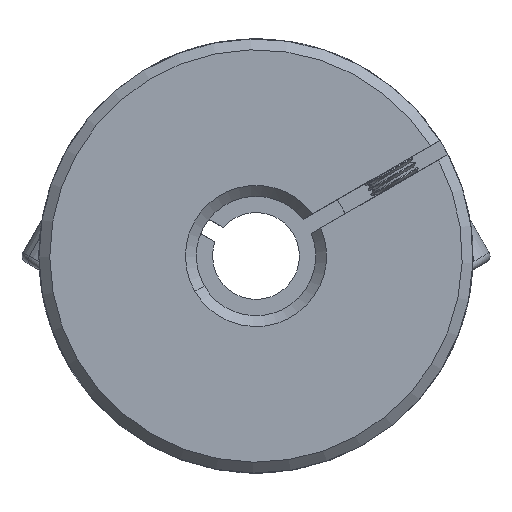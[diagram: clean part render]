
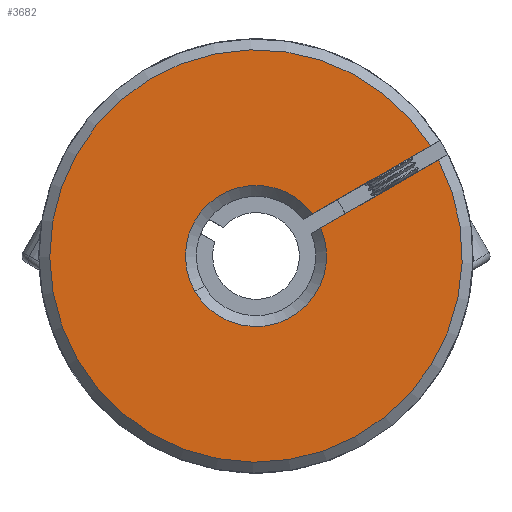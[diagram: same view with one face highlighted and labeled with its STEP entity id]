
A CAD part, front view. The second image highlights one B-rep face of the part: STEP entity #3682.
In plain terms, the highlighted planar face has unit normal (0, -1, 0).
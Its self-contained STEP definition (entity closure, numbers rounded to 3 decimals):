
#773 = EDGE_CURVE ( 'NONE', #1270, #9957, #11115, .T. ) ;
#1270 = VERTEX_POINT ( 'NONE', #13523 ) ;
#1366 = AXIS2_PLACEMENT_3D ( 'NONE', #2923, #7245, #8552 ) ;
#1600 = DIRECTION ( 'NONE',  ( 0., -1., 0. ) ) ;
#1601 = LINE ( 'NONE', #10411, #9548 ) ;
#1625 = CIRCLE ( 'NONE', #6169, 19. ) ;
#1745 = FACE_OUTER_BOUND ( 'NONE', #9309, .T. ) ;
#2253 = EDGE_CURVE ( 'NONE', #5364, #3074, #1625, .T. ) ;
#2315 = VERTEX_POINT ( 'NONE', #5849 ) ;
#2844 = CARTESIAN_POINT ( 'NONE',  ( -1.447, -31.239, 40. ) ) ;
#2886 = CARTESIAN_POINT ( 'NONE',  ( 52.98, -31.239, 45.743 ) ) ;
#2923 = CARTESIAN_POINT ( 'NONE',  ( -1.447, -31.239, 40. ) ) ;
#2983 = DIRECTION ( 'NONE',  ( 0., 1., 0. ) ) ;
#3074 = VERTEX_POINT ( 'NONE', #13713 ) ;
#3682 = ADVANCED_FACE ( 'NONE', ( #1745 ), #7156, .F. ) ;
#3889 = ORIENTED_EDGE ( 'NONE', *, *, #11905, .F. ) ;
#4766 = EDGE_CURVE ( 'NONE', #1270, #3074, #1601, .T. ) ;
#5010 = AXIS2_PLACEMENT_3D ( 'NONE', #2886, #2983, #11656 ) ;
#5105 = ORIENTED_EDGE ( 'NONE', *, *, #7175, .T. ) ;
#5364 = VERTEX_POINT ( 'NONE', #9447 ) ;
#5421 = DIRECTION ( 'NONE',  ( -0.866, 0., -0.5 ) ) ;
#5667 = VECTOR ( 'NONE', #5421, 1000. ) ;
#5703 = CARTESIAN_POINT ( 'NONE',  ( -1.447, -31.239, 40. ) ) ;
#5849 = CARTESIAN_POINT ( 'NONE',  ( 3.768, -31.239, 43.879 ) ) ;
#6134 = DIRECTION ( 'NONE',  ( 0.866, 0., 0.5 ) ) ;
#6169 = AXIS2_PLACEMENT_3D ( 'NONE', #5703, #1600, #7889 ) ;
#7156 = PLANE ( 'NONE',  #5010 ) ;
#7175 = EDGE_CURVE ( 'NONE', #9957, #2315, #7618, .T. ) ;
#7245 = DIRECTION ( 'NONE',  ( 0., 1., 0. ) ) ;
#7591 = ORIENTED_EDGE ( 'NONE', *, *, #773, .T. ) ;
#7616 = CARTESIAN_POINT ( 'NONE',  ( -7.075, -31.239, 36.748 ) ) ;
#7618 = CIRCLE ( 'NONE', #1366, 6.5 ) ;
#7889 = DIRECTION ( 'NONE',  ( 0.5, 0., -0.866 ) ) ;
#8384 = DIRECTION ( 'NONE',  ( 0., 1., 0. ) ) ;
#8552 = DIRECTION ( 'NONE',  ( 0.5, 0., -0.866 ) ) ;
#8628 = ORIENTED_EDGE ( 'NONE', *, *, #4766, .F. ) ;
#9309 = EDGE_LOOP ( 'NONE', ( #8628, #7591, #5105, #3889, #11425 ) ) ;
#9366 = DIRECTION ( 'NONE',  ( 0.5, 0., -0.866 ) ) ;
#9447 = CARTESIAN_POINT ( 'NONE',  ( 14.616, -31.239, 50.147 ) ) ;
#9548 = VECTOR ( 'NONE', #6134, 1000. ) ;
#9957 = VERTEX_POINT ( 'NONE', #7616 ) ;
#10411 = CARTESIAN_POINT ( 'NONE',  ( 3.646, -31.239, 42.076 ) ) ;
#11115 = CIRCLE ( 'NONE', #11149, 6.5 ) ;
#11149 = AXIS2_PLACEMENT_3D ( 'NONE', #2844, #8384, #9366 ) ;
#11425 = ORIENTED_EDGE ( 'NONE', *, *, #2253, .T. ) ;
#11656 = DIRECTION ( 'NONE',  ( 0.5, 0., -0.866 ) ) ;
#11905 = EDGE_CURVE ( 'NONE', #5364, #2315, #12271, .T. ) ;
#12271 = LINE ( 'NONE', #13993, #5667 ) ;
#13523 = CARTESIAN_POINT ( 'NONE',  ( 4.519, -31.239, 42.581 ) ) ;
#13713 = CARTESIAN_POINT ( 'NONE',  ( 15.367, -31.239, 48.848 ) ) ;
#13993 = CARTESIAN_POINT ( 'NONE',  ( 2.896, -31.239, 43.375 ) ) ;
